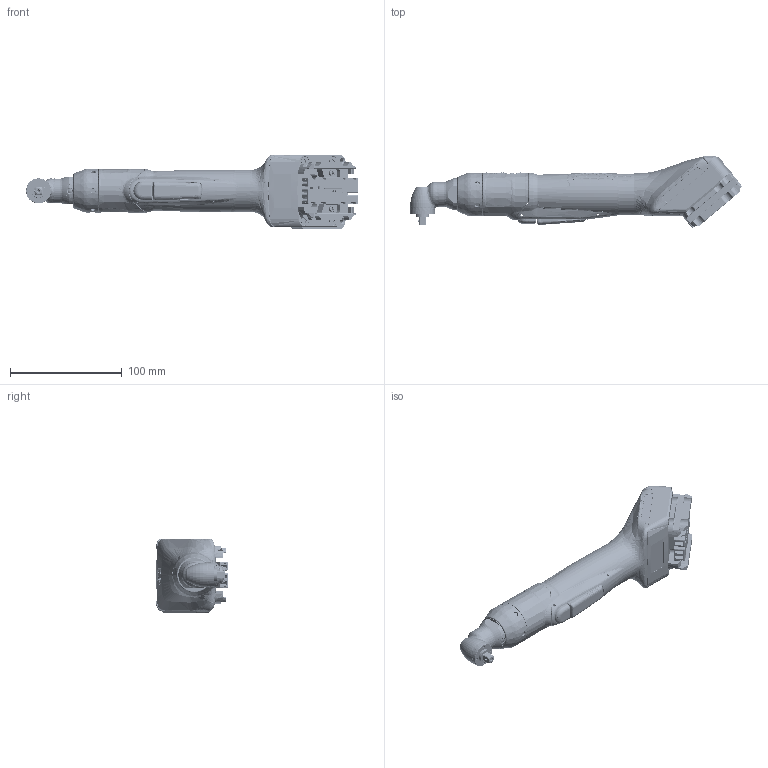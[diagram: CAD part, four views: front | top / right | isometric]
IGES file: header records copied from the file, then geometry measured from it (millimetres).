
Start section:  PTC IGES file: 6151660890.igs
Global section: file name: 6151660890.igs; native system: Creo Parametric by PTC Inc.; preprocessor: 2018260; author: greextsd; organization: Unknown; date: 20190314.105908; units: millimetre
Bounding box: 296.8 x 64.68 x 67.01 mm (x, y, z)
Surface area: 109961.3 mm2 (no closed solid volume)
Topology: 0 solids, 0 shells, 7494 faces, 38267 edges, 38240 vertices
Faces by surface type: bspline 4862, revolution 2153, extrusion 479
